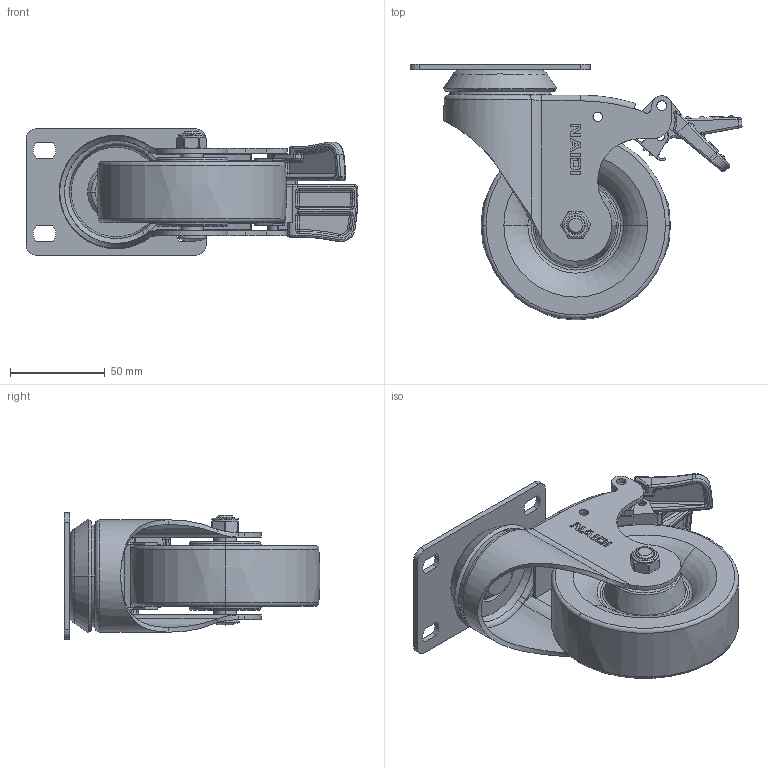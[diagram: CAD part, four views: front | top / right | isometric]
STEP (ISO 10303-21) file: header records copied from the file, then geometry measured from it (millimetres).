
FILE_DESCRIPTION((''),'2;1');
FILE_NAME('B55124_ASM','2024-08-13T',('Lenovo'),(''),'PRO/ENGINEER BY PARAMETRIC TECHNOLOGY CORPORATION, 2010280','PRO/ENGINEER BY PARAMETRIC TECHNOLOGY CORPORATION, 2010280','');
FILE_SCHEMA(('CONFIG_CONTROL_DESIGN'));
Length unit declared in the file: millimetre
Products named in the file (12): B554-321; 570-01; 570-03A; 500-31; B554-986; 500-54; 570-33; 570-34; AA; BB; B554-401; B55124_ASM
Assembly tree (11 placements, depth 2):
  B55124_ASM
    B554-321
    570-01
    570-03A
    500-31
    B554-986
    500-54
    570-33
    570-34
    AA
    BB
    B554-401
Bounding box: 175.19 x 134.93 x 66.5 mm (x, y, z)
Volume: 314018.1 mm3; surface area: 110747.1 mm2
Topology: 11 solids, 11 shells, 858 faces, 2092 edges, 1267 vertices
Faces by surface type: cylinder 293, plane 278, bspline 93, torus 88, cone 58, sphere 48
Entity records: 29524 total; most frequent: CARTESIAN_POINT 9473, DIRECTION 4168, ORIENTED_EDGE 4148, EDGE_CURVE 2074, AXIS2_PLACEMENT_3D 1610, VERTEX_POINT 1267, VECTOR 948, LINE 948
